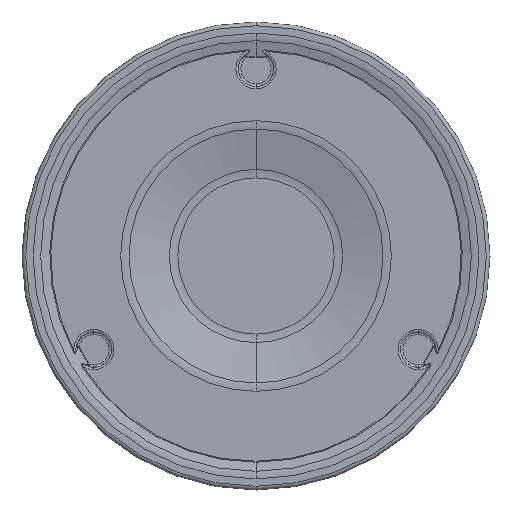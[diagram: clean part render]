
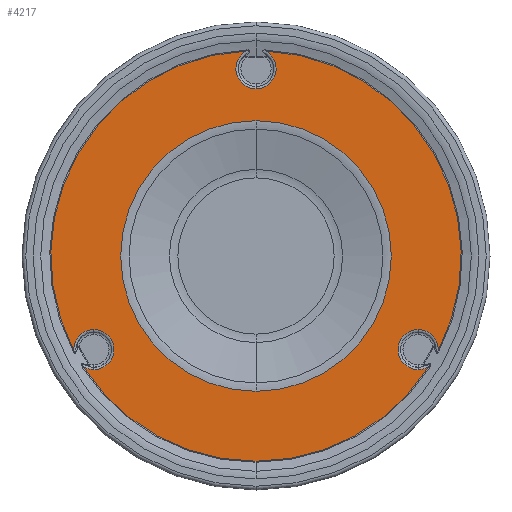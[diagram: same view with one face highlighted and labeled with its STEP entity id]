
A CAD part, front view. The second image highlights one B-rep face of the part: STEP entity #4217.
In plain terms, the highlighted planar face has unit normal (0, -1, 0).
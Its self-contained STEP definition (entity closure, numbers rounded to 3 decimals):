
#41 = AXIS2_PLACEMENT_3D ( 'NONE', #442, #2789, #485 ) ;
#87 = CIRCLE ( 'NONE', #4251, 10.728 ) ;
#94 = VERTEX_POINT ( 'NONE', #2281 ) ;
#163 = EDGE_CURVE ( 'NONE', #1932, #3007, #87, .T. ) ;
#176 = DIRECTION ( 'NONE',  ( 0., 1., 0. ) ) ;
#180 = AXIS2_PLACEMENT_3D ( 'NONE', #2005, #314, #4006 ) ;
#231 = AXIS2_PLACEMENT_3D ( 'NONE', #2448, #3107, #783 ) ;
#253 = VERTEX_POINT ( 'NONE', #2715 ) ;
#303 = ORIENTED_EDGE ( 'NONE', *, *, #3629, .T. ) ;
#314 = DIRECTION ( 'NONE',  ( 0., 1., 0. ) ) ;
#369 = AXIS2_PLACEMENT_3D ( 'NONE', #1976, #176, #3560 ) ;
#413 = AXIS2_PLACEMENT_3D ( 'NONE', #940, #2929, #1268 ) ;
#442 = CARTESIAN_POINT ( 'NONE',  ( 0., 2., 0. ) ) ;
#485 = DIRECTION ( 'NONE',  ( 0., 0., -1. ) ) ;
#489 = DIRECTION ( 'NONE',  ( 0., 0., -1. ) ) ;
#524 = DIRECTION ( 'NONE',  ( 0., -1., 0. ) ) ;
#569 = CARTESIAN_POINT ( 'NONE',  ( 97.32, 2., -50.479 ) ) ;
#587 = EDGE_CURVE ( 'NONE', #253, #4204, #1846, .T. ) ;
#591 = DIRECTION ( 'NONE',  ( 0., 1., 0. ) ) ;
#598 = VERTEX_POINT ( 'NONE', #2326 ) ;
#727 = VERTEX_POINT ( 'NONE', #2881 ) ;
#748 = AXIS2_PLACEMENT_3D ( 'NONE', #1243, #3230, #1572 ) ;
#783 = DIRECTION ( 'NONE',  ( 0., 0., -1. ) ) ;
#813 = CARTESIAN_POINT ( 'NONE',  ( 0., 2., 100. ) ) ;
#835 = AXIS2_PLACEMENT_3D ( 'NONE', #813, #2162, #489 ) ;
#884 = VERTEX_POINT ( 'NONE', #569 ) ;
#887 = EDGE_CURVE ( 'NONE', #4204, #253, #2971, .T. ) ;
#940 = CARTESIAN_POINT ( 'NONE',  ( 0., 2., 0. ) ) ;
#965 = CARTESIAN_POINT ( 'NONE',  ( 0., 2., 0. ) ) ;
#1003 = CARTESIAN_POINT ( 'NONE',  ( 0., 2., 89.272 ) ) ;
#1179 = DIRECTION ( 'NONE',  ( 0., 0., -1. ) ) ;
#1243 = CARTESIAN_POINT ( 'NONE',  ( 0., 2., 0. ) ) ;
#1268 = DIRECTION ( 'NONE',  ( 0., 0., -1. ) ) ;
#1297 = CIRCLE ( 'NONE', #1649, 10.728 ) ;
#1439 = CARTESIAN_POINT ( 'NONE',  ( -97.32, 2., -50.479 ) ) ;
#1468 = DIRECTION ( 'NONE',  ( 0., 1., 0. ) ) ;
#1499 = CIRCLE ( 'NONE', #231, 10.728 ) ;
#1511 = ORIENTED_EDGE ( 'NONE', *, *, #2877, .T. ) ;
#1572 = DIRECTION ( 'NONE',  ( 0., 0., -1. ) ) ;
#1573 = AXIS2_PLACEMENT_3D ( 'NONE', #1855, #524, #1179 ) ;
#1612 = CARTESIAN_POINT ( 'NONE',  ( 86.603, 2., -50. ) ) ;
#1649 = AXIS2_PLACEMENT_3D ( 'NONE', #1612, #3955, #1943 ) ;
#1663 = CIRCLE ( 'NONE', #413, 109.632 ) ;
#1675 = ORIENTED_EDGE ( 'NONE', *, *, #2319, .T. ) ;
#1678 = DIRECTION ( 'NONE',  ( 0., 1., 0. ) ) ;
#1699 = CARTESIAN_POINT ( 'NONE',  ( -86.603, 2., -50. ) ) ;
#1709 = ORIENTED_EDGE ( 'NONE', *, *, #2236, .T. ) ;
#1716 = VERTEX_POINT ( 'NONE', #1736 ) ;
#1720 = ORIENTED_EDGE ( 'NONE', *, *, #3983, .T. ) ;
#1736 = CARTESIAN_POINT ( 'NONE',  ( 86.603, 2., -60.728 ) ) ;
#1792 = CARTESIAN_POINT ( 'NONE',  ( -86.603, 2., -50. ) ) ;
#1794 = EDGE_CURVE ( 'NONE', #598, #3077, #1499, .T. ) ;
#1828 = CARTESIAN_POINT ( 'NONE',  ( 92.376, 2., -59.042 ) ) ;
#1829 = CIRCLE ( 'NONE', #3069, 10.728 ) ;
#1846 = CIRCLE ( 'NONE', #369, 72.279 ) ;
#1855 = CARTESIAN_POINT ( 'NONE',  ( 0., 2., 0. ) ) ;
#1878 = ORIENTED_EDGE ( 'NONE', *, *, #163, .T. ) ;
#1889 = VERTEX_POINT ( 'NONE', #1439 ) ;
#1926 = AXIS2_PLACEMENT_3D ( 'NONE', #965, #3027, #4011 ) ;
#1932 = VERTEX_POINT ( 'NONE', #3427 ) ;
#1943 = DIRECTION ( 'NONE',  ( 0., 0., -1. ) ) ;
#1976 = CARTESIAN_POINT ( 'NONE',  ( 0., 2., 0. ) ) ;
#1991 = DIRECTION ( 'NONE',  ( 0., 0., -1. ) ) ;
#2005 = CARTESIAN_POINT ( 'NONE',  ( 86.603, 2., -50. ) ) ;
#2155 = CARTESIAN_POINT ( 'NONE',  ( 86.603, 2., -39.272 ) ) ;
#2162 = DIRECTION ( 'NONE',  ( 0., 1., 0. ) ) ;
#2225 = VERTEX_POINT ( 'NONE', #2953 ) ;
#2236 = EDGE_CURVE ( 'NONE', #4290, #1716, #1297, .T. ) ;
#2281 = CARTESIAN_POINT ( 'NONE',  ( -4.944, 2., 109.521 ) ) ;
#2311 = CARTESIAN_POINT ( 'NONE',  ( 0., 2., 0. ) ) ;
#2319 = EDGE_CURVE ( 'NONE', #884, #598, #2541, .T. ) ;
#2326 = CARTESIAN_POINT ( 'NONE',  ( 4.944, 2., 109.521 ) ) ;
#2380 = CIRCLE ( 'NONE', #835, 10.728 ) ;
#2406 = ORIENTED_EDGE ( 'NONE', *, *, #3575, .T. ) ;
#2448 = CARTESIAN_POINT ( 'NONE',  ( 0., 2., 100. ) ) ;
#2479 = AXIS2_PLACEMENT_3D ( 'NONE', #2311, #591, #1991 ) ;
#2488 = EDGE_LOOP ( 'NONE', ( #4281, #3156, #1511, #4126, #2406, #1878, #303, #3234, #1709, #1720, #3130, #1675 ) ) ;
#2503 = CARTESIAN_POINT ( 'NONE',  ( 0., 2., 72.279 ) ) ;
#2541 = CIRCLE ( 'NONE', #1926, 109.632 ) ;
#2711 = EDGE_CURVE ( 'NONE', #727, #4290, #3221, .T. ) ;
#2715 = CARTESIAN_POINT ( 'NONE',  ( 0., 2., -72.279 ) ) ;
#2753 = CARTESIAN_POINT ( 'NONE',  ( 86.603, 2., -50. ) ) ;
#2772 = AXIS2_PLACEMENT_3D ( 'NONE', #1699, #1678, #3698 ) ;
#2789 = DIRECTION ( 'NONE',  ( 0., -1., 0. ) ) ;
#2814 = DIRECTION ( 'NONE',  ( 0., 0., -1. ) ) ;
#2877 = EDGE_CURVE ( 'NONE', #94, #1889, #1663, .T. ) ;
#2881 = CARTESIAN_POINT ( 'NONE',  ( 0., 2., -109.632 ) ) ;
#2886 = DIRECTION ( 'NONE',  ( 0., 1., 0. ) ) ;
#2929 = DIRECTION ( 'NONE',  ( 0., -1., 0. ) ) ;
#2944 = DIRECTION ( 'NONE',  ( 0., 1., 0. ) ) ;
#2953 = CARTESIAN_POINT ( 'NONE',  ( -86.603, 2., -39.272 ) ) ;
#2971 = CIRCLE ( 'NONE', #2479, 72.279 ) ;
#3007 = VERTEX_POINT ( 'NONE', #3374 ) ;
#3027 = DIRECTION ( 'NONE',  ( 0., -1., 0. ) ) ;
#3041 = EDGE_CURVE ( 'NONE', #3220, #884, #3768, .T. ) ;
#3069 = AXIS2_PLACEMENT_3D ( 'NONE', #2753, #1468, #2814 ) ;
#3077 = VERTEX_POINT ( 'NONE', #1003 ) ;
#3107 = DIRECTION ( 'NONE',  ( 0., 1., 0. ) ) ;
#3130 = ORIENTED_EDGE ( 'NONE', *, *, #3041, .T. ) ;
#3156 = ORIENTED_EDGE ( 'NONE', *, *, #3682, .T. ) ;
#3186 = DIRECTION ( 'NONE',  ( 0., 0., -1. ) ) ;
#3220 = VERTEX_POINT ( 'NONE', #2155 ) ;
#3221 = CIRCLE ( 'NONE', #748, 109.632 ) ;
#3230 = DIRECTION ( 'NONE',  ( 0., -1., 0. ) ) ;
#3234 = ORIENTED_EDGE ( 'NONE', *, *, #2711, .T. ) ;
#3238 = EDGE_CURVE ( 'NONE', #1889, #2225, #3759, .T. ) ;
#3241 = EDGE_LOOP ( 'NONE', ( #3985, #3710 ) ) ;
#3338 = FACE_BOUND ( 'NONE', #3241, .T. ) ;
#3358 = CARTESIAN_POINT ( 'NONE',  ( -86.603, 2., -50. ) ) ;
#3374 = CARTESIAN_POINT ( 'NONE',  ( -92.376, 2., -59.042 ) ) ;
#3418 = AXIS2_PLACEMENT_3D ( 'NONE', #1792, #2886, #3186 ) ;
#3427 = CARTESIAN_POINT ( 'NONE',  ( -86.603, 2., -60.728 ) ) ;
#3522 = PLANE ( 'NONE',  #41 ) ;
#3560 = DIRECTION ( 'NONE',  ( 0., 0., -1. ) ) ;
#3575 = EDGE_CURVE ( 'NONE', #2225, #1932, #4073, .T. ) ;
#3607 = FACE_OUTER_BOUND ( 'NONE', #2488, .T. ) ;
#3629 = EDGE_CURVE ( 'NONE', #3007, #727, #3912, .T. ) ;
#3658 = DIRECTION ( 'NONE',  ( 0., 0., -1. ) ) ;
#3682 = EDGE_CURVE ( 'NONE', #3077, #94, #2380, .T. ) ;
#3698 = DIRECTION ( 'NONE',  ( 0., 0., -1. ) ) ;
#3710 = ORIENTED_EDGE ( 'NONE', *, *, #887, .T. ) ;
#3759 = CIRCLE ( 'NONE', #3418, 10.728 ) ;
#3768 = CIRCLE ( 'NONE', #180, 10.728 ) ;
#3912 = CIRCLE ( 'NONE', #1573, 109.632 ) ;
#3955 = DIRECTION ( 'NONE',  ( 0., 1., 0. ) ) ;
#3983 = EDGE_CURVE ( 'NONE', #1716, #3220, #1829, .T. ) ;
#3985 = ORIENTED_EDGE ( 'NONE', *, *, #587, .T. ) ;
#4006 = DIRECTION ( 'NONE',  ( 0., 0., -1. ) ) ;
#4011 = DIRECTION ( 'NONE',  ( 0., 0., -1. ) ) ;
#4073 = CIRCLE ( 'NONE', #2772, 10.728 ) ;
#4126 = ORIENTED_EDGE ( 'NONE', *, *, #3238, .T. ) ;
#4204 = VERTEX_POINT ( 'NONE', #2503 ) ;
#4217 = ADVANCED_FACE ( 'NONE', ( #3338, #3607 ), #3522, .T. ) ;
#4251 = AXIS2_PLACEMENT_3D ( 'NONE', #3358, #2944, #3658 ) ;
#4281 = ORIENTED_EDGE ( 'NONE', *, *, #1794, .T. ) ;
#4290 = VERTEX_POINT ( 'NONE', #1828 ) ;
